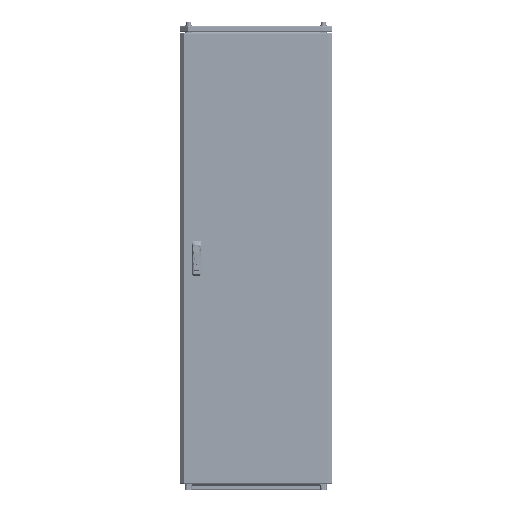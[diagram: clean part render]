
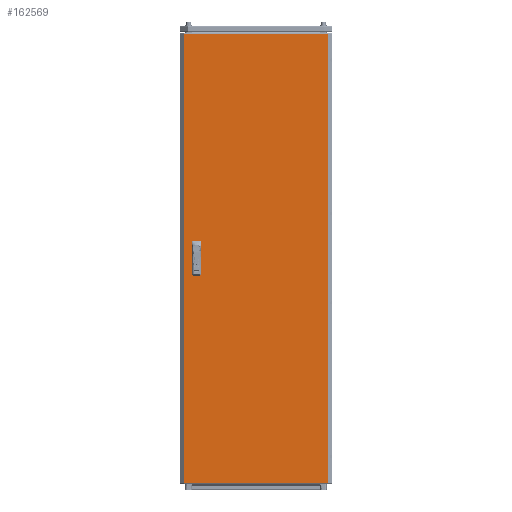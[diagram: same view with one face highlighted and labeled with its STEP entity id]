
A CAD part, top view. The second image highlights one B-rep face of the part: STEP entity #162569.
In plain terms, the highlighted planar face has unit normal (0, 0, 1).
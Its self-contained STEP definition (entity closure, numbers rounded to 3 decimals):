
#151 = CARTESIAN_POINT ( 'NONE',  ( 277.875, -869.5, 0. ) ) ;
#759 = ORIENTED_EDGE ( 'NONE', *, *, #25200, .T. ) ;
#4354 = CARTESIAN_POINT ( 'NONE',  ( -277.875, -869.5, 0. ) ) ;
#5978 = LINE ( 'NONE', #99505, #78424 ) ;
#8194 = CARTESIAN_POINT ( 'NONE',  ( -277.875, 869.5, 0. ) ) ;
#11084 = CARTESIAN_POINT ( 'NONE',  ( -217.5, -62.5, 0. ) ) ;
#11418 = VECTOR ( 'NONE', #242532, 1000. ) ;
#12058 = LINE ( 'NONE', #87054, #55640 ) ;
#12935 = VERTEX_POINT ( 'NONE', #87735 ) ;
#13247 = ORIENTED_EDGE ( 'NONE', *, *, #164725, .F. ) ;
#13621 = CARTESIAN_POINT ( 'NONE',  ( -277.875, -869.5, 0. ) ) ;
#15712 = CARTESIAN_POINT ( 'NONE',  ( 0., 0., 0. ) ) ;
#23500 = LINE ( 'NONE', #168763, #11418 ) ;
#25011 = ORIENTED_EDGE ( 'NONE', *, *, #207788, .T. ) ;
#25200 = EDGE_CURVE ( 'NONE', #176282, #222319, #96622, .T. ) ;
#25274 = EDGE_CURVE ( 'NONE', #157514, #240240, #50909, .T. ) ;
#26859 = CARTESIAN_POINT ( 'NONE',  ( -242.5, 12.5, 0. ) ) ;
#29326 = FACE_OUTER_BOUND ( 'NONE', #237943, .T. ) ;
#30976 = EDGE_CURVE ( 'NONE', #12935, #176282, #229672, .T. ) ;
#31527 = DIRECTION ( 'NONE',  ( 1., 0., 0. ) ) ;
#34350 = CARTESIAN_POINT ( 'NONE',  ( -242.5, -62.5, 0. ) ) ;
#34455 = VERTEX_POINT ( 'NONE', #196065 ) ;
#37034 = EDGE_CURVE ( 'NONE', #106652, #157309, #82956, .T. ) ;
#37772 = VERTEX_POINT ( 'NONE', #98150 ) ;
#38293 = CARTESIAN_POINT ( 'NONE',  ( -277.875, -869.5, 0. ) ) ;
#47499 = EDGE_CURVE ( 'NONE', #37772, #106652, #186047, .T. ) ;
#47695 = DIRECTION ( 'NONE',  ( 0., 1., 0. ) ) ;
#50909 = LINE ( 'NONE', #197408, #63996 ) ;
#53016 = VERTEX_POINT ( 'NONE', #89760 ) ;
#55640 = VECTOR ( 'NONE', #237167, 1000. ) ;
#61083 = CARTESIAN_POINT ( 'NONE',  ( -277.875, 869.5, 0. ) ) ;
#63077 = ORIENTED_EDGE ( 'NONE', *, *, #214107, .F. ) ;
#63996 = VECTOR ( 'NONE', #237924, 1000. ) ;
#64465 = DIRECTION ( 'NONE',  ( 0., -1., 0. ) ) ;
#67332 = LINE ( 'NONE', #217462, #90900 ) ;
#68761 = EDGE_CURVE ( 'NONE', #53016, #157514, #12058, .T. ) ;
#76077 = VECTOR ( 'NONE', #155427, 1000. ) ;
#76088 = ORIENTED_EDGE ( 'NONE', *, *, #68761, .F. ) ;
#77684 = CARTESIAN_POINT ( 'NONE',  ( -242.5, -12.5, 0. ) ) ;
#78424 = VECTOR ( 'NONE', #81016, 1000. ) ;
#80350 = CARTESIAN_POINT ( 'NONE',  ( -242.5, -62.5, 0. ) ) ;
#81016 = DIRECTION ( 'NONE',  ( 0., 1., 0. ) ) ;
#81568 = LINE ( 'NONE', #80350, #76077 ) ;
#82956 = LINE ( 'NONE', #140773, #220450 ) ;
#87054 = CARTESIAN_POINT ( 'NONE',  ( -242.5, 62.5, 0. ) ) ;
#87735 = CARTESIAN_POINT ( 'NONE',  ( 277.875, 869.5, 0. ) ) ;
#89760 = CARTESIAN_POINT ( 'NONE',  ( -217.5, 62.5, 0. ) ) ;
#90900 = VECTOR ( 'NONE', #47695, 1000. ) ;
#96622 = LINE ( 'NONE', #4354, #154374 ) ;
#98150 = CARTESIAN_POINT ( 'NONE',  ( -217.5, -12.5, 0. ) ) ;
#99505 = CARTESIAN_POINT ( 'NONE',  ( 277.875, -869.5, 0. ) ) ;
#100585 = CARTESIAN_POINT ( 'NONE',  ( -242.5, -12.5, 0. ) ) ;
#102939 = EDGE_CURVE ( 'NONE', #240240, #34455, #145899, .T. ) ;
#103760 = ORIENTED_EDGE ( 'NONE', *, *, #232483, .T. ) ;
#104069 = ORIENTED_EDGE ( 'NONE', *, *, #102939, .F. ) ;
#106652 = VERTEX_POINT ( 'NONE', #100585 ) ;
#106789 = DIRECTION ( 'NONE',  ( 0., 0., -1. ) ) ;
#107094 = LINE ( 'NONE', #13621, #143317 ) ;
#122825 = FACE_BOUND ( 'NONE', #143344, .T. ) ;
#124368 = DIRECTION ( 'NONE',  ( 1., 0., 0. ) ) ;
#131941 = VECTOR ( 'NONE', #31527, 1000. ) ;
#134301 = DIRECTION ( 'NONE',  ( -1., 0., 0. ) ) ;
#138319 = VECTOR ( 'NONE', #134301, 1000. ) ;
#139974 = EDGE_LOOP ( 'NONE', ( #165113, #192110, #13247, #169961 ) ) ;
#140773 = CARTESIAN_POINT ( 'NONE',  ( -242.5, -62.5, 0. ) ) ;
#142359 = VERTEX_POINT ( 'NONE', #151 ) ;
#143317 = VECTOR ( 'NONE', #124368, 1000. ) ;
#143344 = EDGE_LOOP ( 'NONE', ( #76088, #63077, #104069, #169514 ) ) ;
#145899 = LINE ( 'NONE', #164388, #131941 ) ;
#154374 = VECTOR ( 'NONE', #208633, 1000. ) ;
#155427 = DIRECTION ( 'NONE',  ( 1., 0., 0. ) ) ;
#157309 = VERTEX_POINT ( 'NONE', #34350 ) ;
#157514 = VERTEX_POINT ( 'NONE', #186905 ) ;
#162569 = ADVANCED_FACE ( 'NONE', ( #122825, #197900, #29326 ), #236008, .F. ) ;
#164388 = CARTESIAN_POINT ( 'NONE',  ( -242.5, 12.5, 0. ) ) ;
#164725 = EDGE_CURVE ( 'NONE', #157309, #238942, #81568, .T. ) ;
#165113 = ORIENTED_EDGE ( 'NONE', *, *, #47499, .F. ) ;
#168763 = CARTESIAN_POINT ( 'NONE',  ( -217.5, 12.5, 0. ) ) ;
#169514 = ORIENTED_EDGE ( 'NONE', *, *, #25274, .F. ) ;
#169961 = ORIENTED_EDGE ( 'NONE', *, *, #37034, .F. ) ;
#176282 = VERTEX_POINT ( 'NONE', #8194 ) ;
#186047 = LINE ( 'NONE', #77684, #138319 ) ;
#186905 = CARTESIAN_POINT ( 'NONE',  ( -242.5, 62.5, 0. ) ) ;
#192110 = ORIENTED_EDGE ( 'NONE', *, *, #217672, .F. ) ;
#196065 = CARTESIAN_POINT ( 'NONE',  ( -217.5, 12.5, 0. ) ) ;
#197408 = CARTESIAN_POINT ( 'NONE',  ( -242.5, 12.5, 0. ) ) ;
#197900 = FACE_BOUND ( 'NONE', #139974, .T. ) ;
#207788 = EDGE_CURVE ( 'NONE', #222319, #142359, #107094, .T. ) ;
#208633 = DIRECTION ( 'NONE',  ( 0., -1., 0. ) ) ;
#209129 = AXIS2_PLACEMENT_3D ( 'NONE', #15712, #106789, #222377 ) ;
#211230 = DIRECTION ( 'NONE',  ( -1., 0., 0. ) ) ;
#214107 = EDGE_CURVE ( 'NONE', #34455, #53016, #23500, .T. ) ;
#215203 = VECTOR ( 'NONE', #211230, 1000. ) ;
#217462 = CARTESIAN_POINT ( 'NONE',  ( -217.5, -62.5, 0. ) ) ;
#217672 = EDGE_CURVE ( 'NONE', #238942, #37772, #67332, .T. ) ;
#220450 = VECTOR ( 'NONE', #64465, 1000. ) ;
#222319 = VERTEX_POINT ( 'NONE', #38293 ) ;
#222377 = DIRECTION ( 'NONE',  ( -1., 0., 0. ) ) ;
#229672 = LINE ( 'NONE', #61083, #215203 ) ;
#232483 = EDGE_CURVE ( 'NONE', #142359, #12935, #5978, .T. ) ;
#236008 = PLANE ( 'NONE',  #209129 ) ;
#237167 = DIRECTION ( 'NONE',  ( -1., 0., 0. ) ) ;
#237924 = DIRECTION ( 'NONE',  ( 0., -1., 0. ) ) ;
#237943 = EDGE_LOOP ( 'NONE', ( #103760, #242270, #759, #25011 ) ) ;
#238942 = VERTEX_POINT ( 'NONE', #11084 ) ;
#240240 = VERTEX_POINT ( 'NONE', #26859 ) ;
#242270 = ORIENTED_EDGE ( 'NONE', *, *, #30976, .T. ) ;
#242532 = DIRECTION ( 'NONE',  ( 0., 1., 0. ) ) ;
